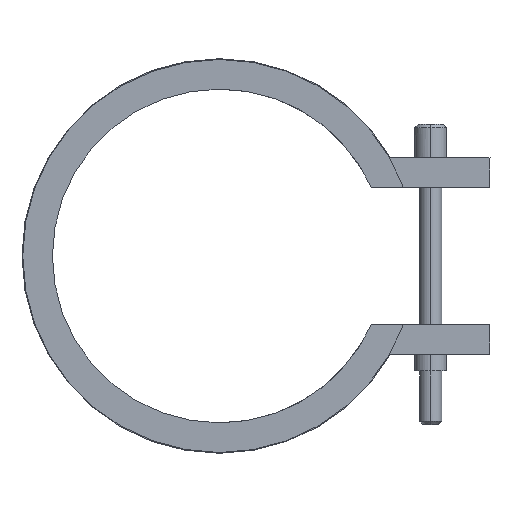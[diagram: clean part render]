
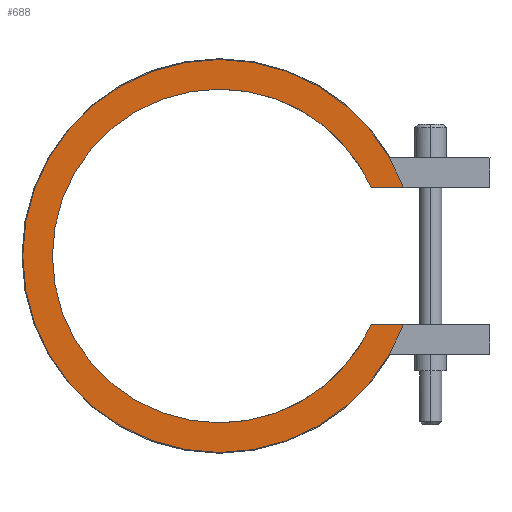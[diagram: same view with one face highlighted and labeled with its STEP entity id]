
A CAD part, left-side view. The second image highlights one B-rep face of the part: STEP entity #688.
In plain terms, the highlighted planar face has unit normal (-1, 0, 0).
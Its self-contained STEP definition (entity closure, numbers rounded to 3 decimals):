
#299=CARTESIAN_POINT('Axis2P3D Location',(-12.5,0.,0.)) ;
#303=CARTESIAN_POINT('Vertex',(-12.5,-20.511,-9.25)) ;
#305=CARTESIAN_POINT('Vertex',(-12.5,0.,-22.5)) ;
#352=CARTESIAN_POINT('Line Origine',(-12.5,-22.672,-9.25)) ;
#356=CARTESIAN_POINT('Vertex',(-12.5,-24.833,-9.25)) ;
#404=CARTESIAN_POINT('Vertex',(-12.5,-20.511,9.25)) ;
#407=CARTESIAN_POINT('Axis2P3D Location',(-12.5,0.,0.)) ;
#411=CARTESIAN_POINT('Vertex',(-12.5,0.,22.5)) ;
#432=CARTESIAN_POINT('Axis2P3D Location',(-12.5,0.,0.)) ;
#647=CARTESIAN_POINT('Axis2P3D Location',(-12.5,0.,0.)) ;
#652=CARTESIAN_POINT('Line Origine',(-12.5,-22.672,9.25)) ;
#656=CARTESIAN_POINT('Vertex',(-12.5,-24.833,9.25)) ;
#659=CARTESIAN_POINT('Axis2P3D Location',(-12.5,0.,0.)) ;
#663=CARTESIAN_POINT('Vertex',(-12.5,0.,26.5)) ;
#666=CARTESIAN_POINT('Axis2P3D Location',(-12.5,0.,0.)) ;
#670=CARTESIAN_POINT('Vertex',(-12.5,0.,-26.5)) ;
#673=CARTESIAN_POINT('Axis2P3D Location',(-12.5,0.,0.)) ;
#300=DIRECTION('Axis2P3D Direction',(1.,0.,-0.)) ;
#353=DIRECTION('Vector Direction',(0.,1.,0.)) ;
#408=DIRECTION('Axis2P3D Direction',(1.,0.,-0.)) ;
#433=DIRECTION('Axis2P3D Direction',(1.,0.,-0.)) ;
#648=DIRECTION('Axis2P3D Direction',(1.,0.,0.)) ;
#649=DIRECTION('Axis2P3D XDirection',(0.,0.,-1.)) ;
#653=DIRECTION('Vector Direction',(0.,-1.,0.)) ;
#660=DIRECTION('Axis2P3D Direction',(1.,0.,0.)) ;
#667=DIRECTION('Axis2P3D Direction',(1.,0.,0.)) ;
#674=DIRECTION('Axis2P3D Direction',(1.,0.,0.)) ;
#301=AXIS2_PLACEMENT_3D('Circle Axis2P3D',#299,#300,$) ;
#409=AXIS2_PLACEMENT_3D('Circle Axis2P3D',#407,#408,$) ;
#434=AXIS2_PLACEMENT_3D('Circle Axis2P3D',#432,#433,$) ;
#650=AXIS2_PLACEMENT_3D('Plane Axis2P3D',#647,#648,#649) ;
#661=AXIS2_PLACEMENT_3D('Circle Axis2P3D',#659,#660,$) ;
#668=AXIS2_PLACEMENT_3D('Circle Axis2P3D',#666,#667,$) ;
#675=AXIS2_PLACEMENT_3D('Circle Axis2P3D',#673,#674,$) ;
#679=ORIENTED_EDGE('',*,*,#358,.T.) ;
#680=ORIENTED_EDGE('',*,*,#307,.T.) ;
#681=ORIENTED_EDGE('',*,*,#436,.T.) ;
#682=ORIENTED_EDGE('',*,*,#413,.T.) ;
#683=ORIENTED_EDGE('',*,*,#658,.T.) ;
#684=ORIENTED_EDGE('',*,*,#665,.F.) ;
#685=ORIENTED_EDGE('',*,*,#672,.F.) ;
#686=ORIENTED_EDGE('',*,*,#677,.F.) ;
#354=VECTOR('Line Direction',#353,1.) ;
#654=VECTOR('Line Direction',#653,1.) ;
#688=ADVANCED_FACE('14045025',(#687),#651,.F.) ;
#302=CIRCLE('generated circle',#301,22.5) ;
#410=CIRCLE('generated circle',#409,22.5) ;
#435=CIRCLE('generated circle',#434,22.5) ;
#662=CIRCLE('generated circle',#661,26.5) ;
#669=CIRCLE('generated circle',#668,26.5) ;
#676=CIRCLE('generated circle',#675,26.5) ;
#307=EDGE_CURVE('',#304,#306,#302,.T.) ;
#358=EDGE_CURVE('',#357,#304,#355,.T.) ;
#413=EDGE_CURVE('',#412,#405,#410,.T.) ;
#436=EDGE_CURVE('',#306,#412,#435,.T.) ;
#658=EDGE_CURVE('',#405,#657,#655,.T.) ;
#665=EDGE_CURVE('',#664,#657,#662,.T.) ;
#672=EDGE_CURVE('',#671,#664,#669,.T.) ;
#677=EDGE_CURVE('',#357,#671,#676,.T.) ;
#678=EDGE_LOOP('',(#679,#680,#681,#682,#683,#684,#685,#686)) ;
#687=FACE_OUTER_BOUND('',#678,.T.) ;
#355=LINE('Line',#352,#354) ;
#655=LINE('Line',#652,#654) ;
#651=PLANE('Plane',#650) ;
#304=VERTEX_POINT('',#303) ;
#306=VERTEX_POINT('',#305) ;
#357=VERTEX_POINT('',#356) ;
#405=VERTEX_POINT('',#404) ;
#412=VERTEX_POINT('',#411) ;
#657=VERTEX_POINT('',#656) ;
#664=VERTEX_POINT('',#663) ;
#671=VERTEX_POINT('',#670) ;
